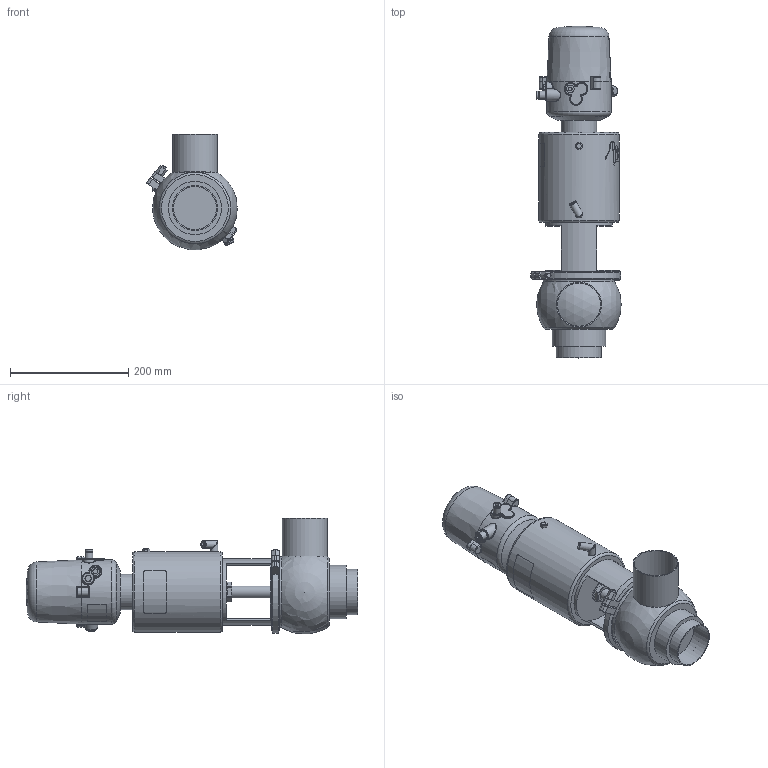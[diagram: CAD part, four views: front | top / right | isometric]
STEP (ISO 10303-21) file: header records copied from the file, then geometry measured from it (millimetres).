
FILE_DESCRIPTION (( 'STEP AP214' ), '1' );
FILE_NAME ('INNOVA N L W OD 3 T3 AS NC & C-TOP S_10.240.16.0055.STEP', '2024-08-06T08:03:12', ( '' ), ( '' ), 'SwSTEP 2.0', 'SolidWorks 2023', '' );
FILE_SCHEMA (( 'AUTOMOTIVE_DESIGN' ));
Length unit declared in the file: millimetre
Products named in the file (7): 10.240.15.0001_DN 080; 10.240.15.0014_T3 AS P0; 10.426.15.0001_C-TOP S - 1 EV; 10.240.15.0017_Estàndard; INNOVA N L W OD 3 T3 AS NC & C-TOP S_10.240.16.0055; 10.240.15.0010_DN 080; 10.240.15.0002_OD 3"
Assembly tree (6 placements, depth 2):
  INNOVA N L W OD 3 T3 AS NC & C-TOP S_10.240.16.0055
    10.240.15.0002_OD 3"
    10.240.15.0010_DN 080
    10.240.15.0014_T3 AS P0
    10.240.15.0017_Estàndard
    10.426.15.0001_C-TOP S - 1 EV
    10.240.15.0001_DN 080
Bounding box: 152.93 x 561 x 195.9 mm (x, y, z)
Volume: 5360945.6 mm3; surface area: 399026.7 mm2
Topology: 6 solids, 6 shells, 1099 faces, 2642 edges, 1763 vertices
Faces by surface type: plane 375, cylinder 330, cone 191, bspline 160, torus 37, sphere 6
Full cylindrical faces by diameter (mm): 0.371 x17, 0.512 x16, 0.658 x16, 0.795 x16, 0.94 x15, 1.098 x15, 1.241 x13, 1.382 x13, 1.523 x11, 1.669 x10, 2.201 x1, 4 x2, 5.5 x2, 6 x2, 6.15 x1, 8 x4, 8.5 x1, 10 x1, 10.5 x1, 11 x2, 12.5 x3, 13 x2, 13.5 x2, 16 x1, 17 x3, 20 x3, 20.5 x1, 22 x2, 31 x1, 34.5 x3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
Entity records: 57744 total; most frequent: CARTESIAN_POINT 27801, ORIENTED_EDGE 4484, DIRECTION 3593, EDGE_CURVE 2242, VERTEX_POINT 1593, EDGE_LOOP 1547, AXIS2_PLACEMENT_3D 1468, FACE_OUTER_BOUND 1311
